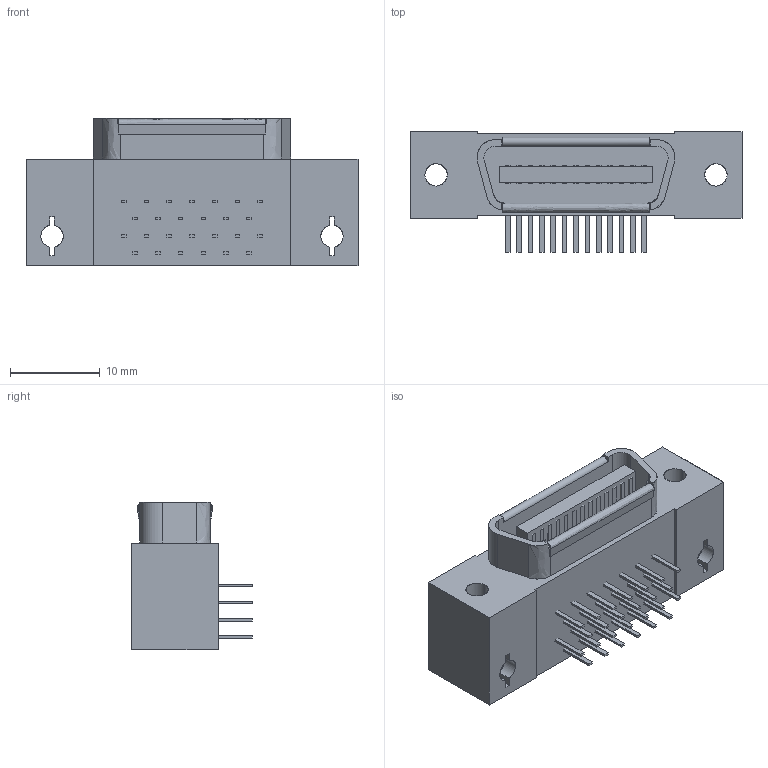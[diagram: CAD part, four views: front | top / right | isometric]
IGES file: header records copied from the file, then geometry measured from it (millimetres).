
Global section: file name: Q:\us254833\2009 Jobs\Rios_3D_10126-5212_wr10694\10126-5212pc_02_iges.igs; native system: NX V5.0; preprocessor: UGS NX IGES V5.0; date: 20090402.145350; units: millimetre
Bounding box: 37.08 x 13.46 x 16.51 mm (x, y, z)
Surface area: 4026.6 mm2 (no closed solid volume)
Topology: 0 solids, 0 shells, 317 faces, 1632 edges, 1632 vertices
Faces by surface type: bspline 317
